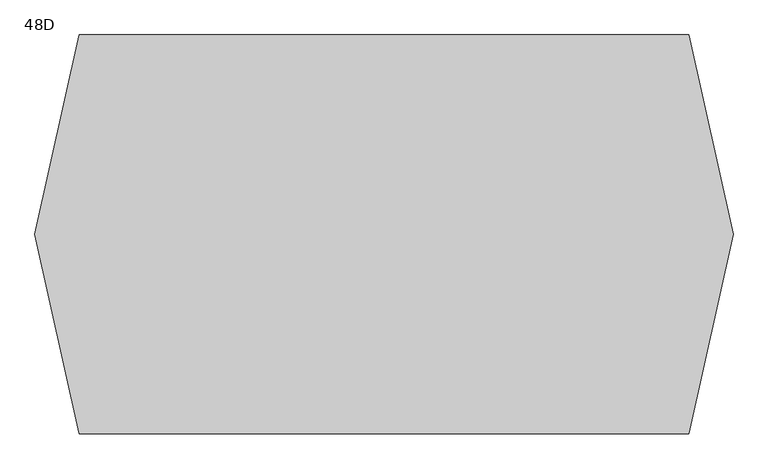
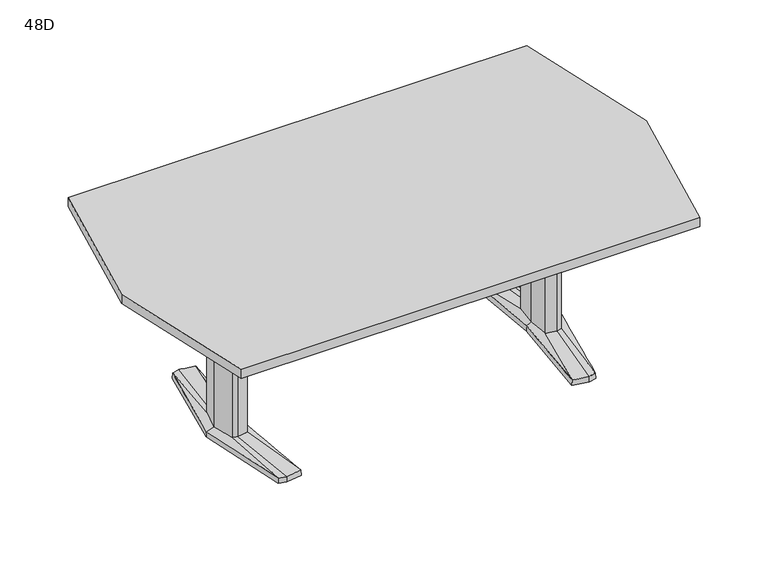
"""IFC4 building model written with IfcOpenShell, lengths in millimetres: furniture geometry, Coalesse_AM_Table_Conference_ETable2_Faceted_84in_AluminiumBase : 48D."""

from ifc_helpers import new_model, si_unit, frame, origin, place, context, project, spatial, polyline, outline, extrude, source, transform, mapped, element, save
from ifc_brep_helpers import plane_surface, spline_surface, advanced_brep


def furniture_48d_c1489872(model_context):
    return source(origin(), model_context, "Body", "SolidModel", [
        advanced_brep(
        [(614.8503471, -379.3768856, 25.4), (644.5756636, -371.5332654, 25.4), (668.2327243, -89.293702, 36.5125), (648.9795254, -94.605478, 36.5125), (606.0521001, -87.0529327, 36.5125), (551.7612538, -368.5071562, 25.4), (597.9364207, 0.0, 36.5125), (579.8389754, 0.3970149, 25.4), (606.0521001, 87.0529327, 36.5125), (551.7615002, 368.5172593, 25.4), (648.9795254, 94.605478, 36.5125), (614.8502233, 379.3769183, 25.4), (668.2327243, 89.293702, 36.5125), (644.7535458, 371.4863276, 25.4), (692.1595251, 0.0, 36.5125), (721.4851663, 0.0003516, 25.4), (578.2468742, 0.3968871, 3.175), (550.06875, 369.8367279, 3.175), (614.9213004, 381.0, 3.175), (646.1093245, 372.7704151, 3.175), (723.10625, 0.0, 3.175), (645.9309817, -372.8174744, 3.175), (614.9213004, -381.0, 3.175), (550.06875, -369.8264415, 3.175), (649.5979264, 107.6121478, 3.175), (594.3065451, 97.8843184, 3.175), (585.1810887, 0.0, 3.175), (594.3065451, -97.8843184, 3.175), (649.5979264, -107.6121478, 3.175), (678.6183473, -99.6056872, 3.175), (705.3083085, 0.0, 3.175), (678.6183473, 99.6056872, 3.175), (613.4286812, 346.9152841, 3.175), (557.7811371, 337.3364985, 3.175), (560.1889918, 324.8641942, 3.175), (612.8600644, 333.9306305, 3.175), (648.6725609, 324.4807859, 3.175), (647.5544526, 337.9105158, 3.175), (613.4286812, -346.9152841, 3.175), (647.5544526, -337.9105158, 3.175), (648.6725609, -324.4807859, 3.175), (612.8600644, -333.9306305, 3.175), (560.1889918, -324.8641942, 3.175), (557.7811371, -337.3364985, 3.175), (649.5979264, 107.6121478, 0.0), (678.6183473, 99.6056872, 0.0), (705.3083085, 0.0, 0.0), (678.6183473, -99.6056872, 0.0), (649.5979264, -107.6121478, 0.0), (594.3065451, -97.8843184, 0.0), (585.1810887, 0.0, 0.0), (594.3065451, 97.8843184, 0.0), (613.4286812, 346.9152841, 0.0), (647.5544526, 337.9105158, 0.0), (648.6725609, 324.4807859, 0.0), (612.8600644, 333.9306305, 0.0), (560.1889918, 324.8641942, 0.0), (557.7811371, 337.3364985, 0.0), (613.4286812, -346.9152841, 0.0), (557.7811371, -337.3364985, 0.0), (560.1889918, -324.8641942, 0.0), (612.8600644, -333.9306305, 0.0), (648.6725609, -324.4807859, 0.0), (647.5544526, -337.9105158, 0.0), (668.2327243, 89.293702, 698.5), (648.9795254, 94.605478, 698.5), (606.0521001, 87.0529327, 698.5), (597.9364207, 0.0, 698.5), (606.0521001, -87.0529327, 698.5), (648.9795254, -94.605478, 698.5), (668.2327243, -89.293702, 698.5), (692.1595251, 0.0, 698.5)],
        [
            (0, 1),
            (1, 2),
            (2, 3),
            (3, 0),
            (3, 4),
            (4, 5),
            (5, 0),
            (4, 6),
            (6, 7),
            (7, 5),
            (6, 8),
            (8, 9),
            (9, 7),
            (8, 10),
            (10, 11),
            (11, 9),
            (10, 12),
            (12, 13),
            (13, 11),
            (12, 14),
            (14, 15),
            (15, 13),
            (1, 15),
            (14, 2),
            (16, 17),
            (17, 18),
            (18, 19),
            (19, 20),
            (20, 21),
            (21, 22),
            (22, 23),
            (23, 16),
            (24, 25),
            (25, 26),
            (26, 27),
            (27, 28),
            (28, 29),
            (29, 30),
            (30, 31),
            (31, 24),
            (32, 33),
            (33, 34),
            (34, 35),
            (35, 36),
            (36, 37),
            (37, 32),
            (38, 39),
            (39, 40),
            (40, 41),
            (41, 42),
            (42, 43),
            (43, 38),
            (16, 7),
            (9, 17),
            (11, 18),
            (13, 19),
            (15, 20),
            (1, 21),
            (0, 22),
            (5, 23),
            (44, 45),
            (45, 46),
            (46, 47),
            (47, 48),
            (48, 49),
            (49, 50),
            (50, 51),
            (51, 44),
            (52, 53),
            (53, 54),
            (54, 55),
            (55, 56),
            (56, 57),
            (57, 52),
            (58, 59),
            (59, 60),
            (60, 61),
            (61, 62),
            (62, 63),
            (63, 58),
            (44, 24),
            (31, 45),
            (30, 46),
            (29, 47),
            (28, 48),
            (27, 49),
            (26, 50),
            (25, 51),
            (52, 32),
            (37, 53),
            (36, 54),
            (35, 55),
            (34, 56),
            (33, 57),
            (58, 38),
            (43, 59),
            (42, 60),
            (41, 61),
            (40, 62),
            (39, 63),
            (64, 65),
            (65, 66),
            (66, 67),
            (67, 68),
            (68, 69),
            (69, 70),
            (70, 71),
            (71, 64),
            (71, 14),
            (12, 64),
            (70, 2),
            (69, 3),
            (68, 4),
            (67, 6),
            (66, 8),
            (65, 10),
        ],
        [
            spline_surface(1, 1, [[(644.5756636, -371.5332654, 25.4), (614.8503471, -379.3768856, 25.4)], [(668.2327243, -89.293702, 36.5125), (648.9795254, -94.605478, 36.5125)]], [2, 2], [2, 2], [0.0, 1.0], [0.0, 1.0]),
            spline_surface(1, 1, [[(614.8503471, -379.3768856, 25.4), (551.7612538, -368.5071562, 25.4)], [(648.9795254, -94.605478, 36.5125), (606.0521001, -87.0529327, 36.5125)]], [2, 2], [2, 2], [0.0, 1.0], [0.0, 1.0]),
            spline_surface(1, 1, [[(551.7612538, -368.5071562, 25.4), (579.8389754, 0.3970149, 25.4)], [(606.0521001, -87.0529327, 36.5125), (597.9364207, 0.0, 36.5125)]], [2, 2], [2, 2], [0.0, 1.0], [0.0, 1.0]),
            spline_surface(1, 1, [[(579.8389754, 0.3970149, 25.4), (551.7615002, 368.5172593, 25.4)], [(597.9364207, 0.0, 36.5125), (606.0521001, 87.0529327, 36.5125)]], [2, 2], [2, 2], [0.0, 1.0], [0.0, 1.0]),
            spline_surface(1, 1, [[(551.7615002, 368.5172593, 25.4), (614.8502233, 379.3769183, 25.4)], [(606.0521001, 87.0529327, 36.5125), (648.9795254, 94.605478, 36.5125)]], [2, 2], [2, 2], [0.0, 1.0], [0.0, 1.0]),
            spline_surface(1, 1, [[(614.8502233, 379.3769183, 25.4), (644.7535458, 371.4863276, 25.4)], [(648.9795254, 94.605478, 36.5125), (668.2327243, 89.293702, 36.5125)]], [2, 2], [2, 2], [0.0, 1.0], [0.0, 1.0]),
            spline_surface(1, 1, [[(644.7535458, 371.4863276, 25.4), (721.4851663, 0.0003516, 25.4)], [(668.2327243, 89.293702, 36.5125), (692.1595251, 0.0, 36.5125)]], [2, 2], [2, 2], [0.0, 1.0], [0.0, 1.0]),
            spline_surface(1, 1, [[(721.4851663, 0.0003516, 25.4), (644.5756636, -371.5332654, 25.4)], [(692.1595251, 0.0, 36.5125), (668.2327243, -89.293702, 36.5125)]], [2, 2], [2, 2], [0.0, 1.0], [0.0, 1.0]),
            plane_surface(frame((615.4216914, 0.0450143, 3.175), z_axis=(0.0, 0.0, -1.0), x_axis=(-0.9669048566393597, -0.2551372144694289, 0.0))),
            plane_surface(frame((564.1578121, 185.1168075, 3.175), z_axis=(-0.9945699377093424, -0.07585840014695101, 0.0712470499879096), x_axis=(-0.07605167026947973, 0.9971038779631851, 0.0))),
            plane_surface(frame((582.4950252, 375.418364, 3.175), z_axis=(-0.1692071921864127, 0.9830019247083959, 0.07124704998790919), x_axis=(0.985506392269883, 0.16963829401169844, 0.0))),
            plane_surface(frame((630.5153124, 376.8852076, 3.175), z_axis=(0.2544888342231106, 0.9644476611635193, 0.07124704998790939), x_axis=(0.9669048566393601, -0.25513721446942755, 0.0))),
            plane_surface(frame((684.6077872, 186.3852076, 3.175), z_axis=(0.9768383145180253, 0.2017690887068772, 0.07124704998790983), x_axis=(0.20228315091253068, -0.9793270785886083, 0.0))),
            plane_surface(frame((684.5186158, -186.4087372, 3.175), z_axis=(0.9767507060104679, -0.20219276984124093, 0.07124704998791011), x_axis=(-0.2027079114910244, -0.9792392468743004, 0.0))),
            plane_surface(frame((630.426141, -376.9087372, 3.175), z_axis=(0.2544888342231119, -0.9644476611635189, 0.0712470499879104), x_axis=(-0.9669048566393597, -0.2551372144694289, 0.0))),
            plane_surface(frame((582.4950252, -375.4132207, 3.175), z_axis=(-0.16935861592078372, -0.982975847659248, 0.07124704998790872), x_axis=(-0.9854802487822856, 0.16979010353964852, 0.0))),
            plane_surface(frame((564.1578121, -184.7147772, 3.175), z_axis=(-0.9945820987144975, 0.07569878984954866, 0.07124704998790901), x_axis=(0.07589165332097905, 0.9971160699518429, 0.0))),
            plane_surface(frame((652.3571479, 106.8509046, 0.0), z_axis=(0.0, 0.0, -1.0000000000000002), x_axis=(-0.9639855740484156, 0.26595453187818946, 0.0))),
            plane_surface(frame((649.5979264, 107.6121478, 3.175), z_axis=(0.26595453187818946, 0.9639855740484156, 0.0), x_axis=(0.0, 0.0, -1.0))),
            plane_surface(frame((678.6183473, 99.6056872, 3.175), z_axis=(0.9659241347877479, 0.2588253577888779, 0.0), x_axis=(0.0, 0.0, -1.0))),
            plane_surface(frame((705.3083085, 0.0, 3.175), z_axis=(0.9659241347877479, -0.2588253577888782, 0.0), x_axis=(0.0, 0.0, -1.0))),
            plane_surface(frame((678.6183473, -99.6056872, 3.175), z_axis=(0.26595453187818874, -0.9639855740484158, 0.0), x_axis=(0.0, 0.0, -1.0))),
            plane_surface(frame((649.5979264, -107.6121478, 3.175), z_axis=(-0.17327617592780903, -0.9848732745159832, 0.0), x_axis=(0.0, 0.0, -1.0))),
            plane_surface(frame((594.3065451, -97.8843184, 3.175), z_axis=(-0.9956824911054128, -0.0928244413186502, 0.0), x_axis=(0.0, 0.0, -1.0))),
            plane_surface(frame((585.1810887, 0.0, 3.175), z_axis=(-0.9956824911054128, 0.09282444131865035, 0.0), x_axis=(0.0, 0.0, -1.0))),
            plane_surface(frame((594.3065451, 97.8843184, 3.175), z_axis=(-0.17327617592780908, 0.984873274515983, 0.0), x_axis=(0.0, 0.0, -1.0))),
            plane_surface(frame((613.4286812, 346.9152841, 3.175), z_axis=(0.25513721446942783, 0.9669048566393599, 0.0), x_axis=(0.0, 0.0, -1.0))),
            plane_surface(frame((647.5544526, 337.9105158, 3.175), z_axis=(0.9965521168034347, 0.0829691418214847, 0.0), x_axis=(0.0, 0.0, -1.0))),
            plane_surface(frame((648.6725609, 324.4807859, 3.175), z_axis=(-0.25513721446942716, -0.9669048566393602, 0.0), x_axis=(0.0, 0.0, -1.0))),
            plane_surface(frame((612.8600644, 333.9306305, 3.175), z_axis=(0.16963829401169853, -0.985506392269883, 0.0), x_axis=(0.0, 0.0, -1.0))),
            plane_surface(frame((560.1889918, 324.8641942, 3.175), z_axis=(-0.9818699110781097, -0.18955600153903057, 0.0), x_axis=(0.0, 0.0, -1.0))),
            plane_surface(frame((557.7811371, 337.3364985, 3.175), z_axis=(-0.16963829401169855, 0.9855063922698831, 0.0), x_axis=(0.0, 0.0, -1.0))),
            plane_surface(frame((613.4286812, -346.9152841, 3.175), z_axis=(-0.1696382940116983, -0.9855063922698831, 0.0), x_axis=(0.0, 0.0, -1.0))),
            plane_surface(frame((557.7811371, -337.3364985, 3.175), z_axis=(-0.9818699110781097, 0.18955600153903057, 0.0), x_axis=(0.0, 0.0, -1.0))),
            plane_surface(frame((560.1889918, -324.8641942, 3.175), z_axis=(0.16963829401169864, 0.985506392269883, 0.0), x_axis=(0.0, 0.0, -1.0))),
            plane_surface(frame((612.8600644, -333.9306305, 3.175), z_axis=(-0.2551372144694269, 0.9669048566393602, 0.0), x_axis=(0.0, 0.0, -1.0))),
            plane_surface(frame((648.6725609, -324.4807859, 3.175), z_axis=(0.9965521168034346, -0.0829691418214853, 0.0), x_axis=(0.0, 0.0, -1.0))),
            plane_surface(frame((647.5544526, -337.9105158, 3.175), z_axis=(0.2551372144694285, -0.9669048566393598, 0.0), x_axis=(0.0, 0.0, -1.0))),
            plane_surface(frame((692.1595251, 0.0, 698.5), z_axis=(0.0, 0.0, 1.0), x_axis=(0.25882535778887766, -0.965924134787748, 0.0))),
            plane_surface(frame((668.2327243, 89.293702, 698.5), z_axis=(0.965924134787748, 0.25882535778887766, 0.0), x_axis=(0.0, 0.0, -1.0))),
            plane_surface(frame((692.1595251, 0.0, 698.5), z_axis=(0.965924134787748, -0.2588253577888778, 0.0), x_axis=(0.0, 0.0, -1.0))),
            plane_surface(frame((668.2327243, -89.293702, 698.5), z_axis=(0.2659545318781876, -0.963985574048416, 0.0), x_axis=(0.0, 0.0, -1.0))),
            plane_surface(frame((648.9795254, -94.605478, 698.5), z_axis=(-0.1732761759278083, -0.9848732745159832, 0.0), x_axis=(0.0, 0.0, -1.0))),
            plane_surface(frame((606.0521001, -87.0529327, 698.5), z_axis=(-0.9956824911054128, -0.0928244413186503, 0.0), x_axis=(0.0, 0.0, -1.0))),
            plane_surface(frame((597.9364207, 0.0, 698.5), z_axis=(-0.9956824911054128, 0.09282444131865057, 0.0), x_axis=(0.0, 0.0, -1.0))),
            plane_surface(frame((606.0521001, 87.0529327, 698.5), z_axis=(-0.17327617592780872, 0.9848732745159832, 0.0), x_axis=(0.0, 0.0, -1.0))),
            plane_surface(frame((648.9795254, 94.605478, 698.5), z_axis=(0.26595453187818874, 0.9639855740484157, 0.0), x_axis=(0.0, 0.0, -1.0))),
        ],
        [
            (0, [[1, 2, 3, 4]]),
            (1, [[5, 6, 7, -4]]),
            (2, [[8, 9, 10, -6]]),
            (3, [[11, 12, 13, -9]]),
            (4, [[14, 15, 16, -12]]),
            (5, [[17, 18, 19, -15]]),
            (6, [[20, 21, 22, -18]]),
            (7, [[23, -21, 24, -2]]),
            (8, [[25, 26, 27, 28, 29, 30, 31, 32], [33, 34, 35, 36, 37, 38, 39, 40], [41, 42, 43, 44, 45, 46], [47, 48, 49, 50, 51, 52]]),
            (9, [[53, -13, 54, -25]]),
            (10, [[-54, -16, 55, -26]]),
            (11, [[-55, -19, 56, -27]]),
            (12, [[-56, -22, 57, -28]]),
            (13, [[-57, -23, 58, -29]]),
            (14, [[-58, -1, 59, -30]]),
            (15, [[-59, -7, 60, -31]]),
            (16, [[-60, -10, -53, -32]]),
            (17, [[61, 62, 63, 64, 65, 66, 67, 68]]),
            (17, [[69, 70, 71, 72, 73, 74]]),
            (17, [[75, 76, 77, 78, 79, 80]]),
            (18, [[81, -40, 82, -61]]),
            (19, [[-82, -39, 83, -62]]),
            (20, [[-83, -38, 84, -63]]),
            (21, [[-84, -37, 85, -64]]),
            (22, [[-85, -36, 86, -65]]),
            (23, [[-86, -35, 87, -66]]),
            (24, [[-87, -34, 88, -67]]),
            (25, [[-88, -33, -81, -68]]),
            (26, [[89, -46, 90, -69]]),
            (27, [[-90, -45, 91, -70]]),
            (28, [[-91, -44, 92, -71]]),
            (29, [[-92, -43, 93, -72]]),
            (30, [[-93, -42, 94, -73]]),
            (31, [[-94, -41, -89, -74]]),
            (32, [[95, -52, 96, -75]]),
            (33, [[-96, -51, 97, -76]]),
            (34, [[-97, -50, 98, -77]]),
            (35, [[-98, -49, 99, -78]]),
            (36, [[-99, -48, 100, -79]]),
            (37, [[-100, -47, -95, -80]]),
            (38, [[101, 102, 103, 104, 105, 106, 107, 108]]),
            (39, [[109, -20, 110, -108]]),
            (40, [[111, -24, -109, -107]]),
            (41, [[112, -3, -111, -106]]),
            (42, [[113, -5, -112, -105]]),
            (43, [[114, -8, -113, -104]]),
            (44, [[115, -11, -114, -103]]),
            (45, [[116, -14, -115, -102]]),
            (46, [[-110, -17, -116, -101]]),
        ],
    ),
        advanced_brep(
        [(-614.8503471, -379.3768856, 25.4), (-648.9795254, -94.605478, 36.5125), (-668.2327243, -89.293702, 36.5125), (-644.5756636, -371.5332654, 25.4), (-551.7612538, -368.5071562, 25.4), (-606.0521001, -87.0529327, 36.5125), (-579.8389754, 0.3970149, 25.4), (-597.9364207, 0.0, 36.5125), (-551.7615002, 368.5172593, 25.4), (-606.0521001, 87.0529327, 36.5125), (-614.8502233, 379.3769183, 25.4), (-648.9795254, 94.605478, 36.5125), (-644.7535458, 371.4863276, 25.4), (-668.2327243, 89.293702, 36.5125), (-721.4851663, 0.0003516, 25.4), (-692.1595251, 0.0, 36.5125), (-578.2468742, 0.3968871, 3.175), (-550.06875, -369.8264415, 3.175), (-614.9213004, -381.0, 3.175), (-645.9309817, -372.8174744, 3.175), (-723.10625, 0.0, 3.175), (-646.1093245, 372.7704151, 3.175), (-614.9213004, 381.0, 3.175), (-550.06875, 369.8367279, 3.175), (-649.5979264, 107.6121478, 3.175), (-678.6183473, 99.6056872, 3.175), (-705.3083085, 0.0, 3.175), (-678.6183473, -99.6056872, 3.175), (-649.5979264, -107.6121478, 3.175), (-594.3065451, -97.8843184, 3.175), (-585.1810887, 0.0, 3.175), (-594.3065451, 97.8843184, 3.175), (-613.4286812, 346.9152841, 3.175), (-647.5544526, 337.9105158, 3.175), (-648.6725609, 324.4807859, 3.175), (-612.8600644, 333.9306305, 3.175), (-560.1889918, 324.8641942, 3.175), (-557.7811371, 337.3364985, 3.175), (-613.4286812, -346.9152841, 3.175), (-557.7811371, -337.3364985, 3.175), (-560.1889918, -324.8641942, 3.175), (-612.8600644, -333.9306305, 3.175), (-648.6725609, -324.4807859, 3.175), (-647.5544526, -337.9105158, 3.175), (-649.5979264, 107.6121478, 0.0), (-594.3065451, 97.8843184, 0.0), (-585.1810887, 0.0, 0.0), (-594.3065451, -97.8843184, 0.0), (-649.5979264, -107.6121478, 0.0), (-678.6183473, -99.6056872, 0.0), (-705.3083085, 0.0, 0.0), (-678.6183473, 99.6056872, 0.0), (-613.4286812, 346.9152841, 0.0), (-557.7811371, 337.3364985, 0.0), (-560.1889918, 324.8641942, 0.0), (-612.8600644, 333.9306305, 0.0), (-648.6725609, 324.4807859, 0.0), (-647.5544526, 337.9105158, 0.0), (-613.4286812, -346.9152841, 0.0), (-647.5544526, -337.9105158, 0.0), (-648.6725609, -324.4807859, 0.0), (-612.8600644, -333.9306305, 0.0), (-560.1889918, -324.8641942, 0.0), (-557.7811371, -337.3364985, 0.0), (-668.2327243, 89.293702, 698.5), (-692.1595251, 0.0, 698.5), (-668.2327243, -89.293702, 698.5), (-648.9795254, -94.605478, 698.5), (-606.0521001, -87.0529327, 698.5), (-597.9364207, 0.0, 698.5), (-606.0521001, 87.0529327, 698.5), (-648.9795254, 94.605478, 698.5)],
        [
            (0, 1),
            (1, 2),
            (2, 3),
            (3, 0),
            (0, 4),
            (4, 5),
            (5, 1),
            (4, 6),
            (6, 7),
            (7, 5),
            (6, 8),
            (8, 9),
            (9, 7),
            (8, 10),
            (10, 11),
            (11, 9),
            (10, 12),
            (12, 13),
            (13, 11),
            (12, 14),
            (14, 15),
            (15, 13),
            (2, 15),
            (14, 3),
            (16, 17),
            (17, 18),
            (18, 19),
            (19, 20),
            (20, 21),
            (21, 22),
            (22, 23),
            (23, 16),
            (24, 25),
            (25, 26),
            (26, 27),
            (27, 28),
            (28, 29),
            (29, 30),
            (30, 31),
            (31, 24),
            (32, 33),
            (33, 34),
            (34, 35),
            (35, 36),
            (36, 37),
            (37, 32),
            (38, 39),
            (39, 40),
            (40, 41),
            (41, 42),
            (42, 43),
            (43, 38),
            (23, 8),
            (6, 16),
            (22, 10),
            (21, 12),
            (20, 14),
            (19, 3),
            (18, 0),
            (17, 4),
            (44, 45),
            (45, 46),
            (46, 47),
            (47, 48),
            (48, 49),
            (49, 50),
            (50, 51),
            (51, 44),
            (52, 53),
            (53, 54),
            (54, 55),
            (55, 56),
            (56, 57),
            (57, 52),
            (58, 59),
            (59, 60),
            (60, 61),
            (61, 62),
            (62, 63),
            (63, 58),
            (51, 25),
            (24, 44),
            (50, 26),
            (49, 27),
            (48, 28),
            (47, 29),
            (46, 30),
            (45, 31),
            (57, 33),
            (32, 52),
            (56, 34),
            (55, 35),
            (54, 36),
            (53, 37),
            (63, 39),
            (38, 58),
            (62, 40),
            (61, 41),
            (60, 42),
            (59, 43),
            (64, 65),
            (65, 66),
            (66, 67),
            (67, 68),
            (68, 69),
            (69, 70),
            (70, 71),
            (71, 64),
            (64, 13),
            (15, 65),
            (2, 66),
            (1, 67),
            (5, 68),
            (7, 69),
            (9, 70),
            (11, 71),
        ],
        [
            spline_surface(1, 1, [[(-644.5756636, -371.5332654, 25.4), (-668.2327243, -89.293702, 36.5125)], [(-614.8503471, -379.3768856, 25.4), (-648.9795254, -94.605478, 36.5125)]], [2, 2], [2, 2], [0.0, 1.0], [0.0, 1.0]),
            spline_surface(1, 1, [[(-614.8503471, -379.3768856, 25.4), (-648.9795254, -94.605478, 36.5125)], [(-551.7612538, -368.5071562, 25.4), (-606.0521001, -87.0529327, 36.5125)]], [2, 2], [2, 2], [0.0, 1.0], [0.0, 1.0]),
            spline_surface(1, 1, [[(-551.7612538, -368.5071562, 25.4), (-606.0521001, -87.0529327, 36.5125)], [(-579.8389754, 0.3970149, 25.4), (-597.9364207, 0.0, 36.5125)]], [2, 2], [2, 2], [0.0, 1.0], [0.0, 1.0]),
            spline_surface(1, 1, [[(-579.8389754, 0.3970149, 25.4), (-597.9364207, 0.0, 36.5125)], [(-551.7615002, 368.5172593, 25.4), (-606.0521001, 87.0529327, 36.5125)]], [2, 2], [2, 2], [0.0, 1.0], [0.0, 1.0]),
            spline_surface(1, 1, [[(-551.7615002, 368.5172593, 25.4), (-606.0521001, 87.0529327, 36.5125)], [(-614.8502233, 379.3769183, 25.4), (-648.9795254, 94.605478, 36.5125)]], [2, 2], [2, 2], [0.0, 1.0], [0.0, 1.0]),
            spline_surface(1, 1, [[(-614.8502233, 379.3769183, 25.4), (-648.9795254, 94.605478, 36.5125)], [(-644.7535458, 371.4863276, 25.4), (-668.2327243, 89.293702, 36.5125)]], [2, 2], [2, 2], [0.0, 1.0], [0.0, 1.0]),
            spline_surface(1, 1, [[(-644.7535458, 371.4863276, 25.4), (-668.2327243, 89.293702, 36.5125)], [(-721.4851663, 0.0003516, 25.4), (-692.1595251, 0.0, 36.5125)]], [2, 2], [2, 2], [0.0, 1.0], [0.0, 1.0]),
            spline_surface(1, 1, [[(-721.4851663, 0.0003516, 25.4), (-692.1595251, 0.0, 36.5125)], [(-644.5756636, -371.5332654, 25.4), (-668.2327243, -89.293702, 36.5125)]], [2, 2], [2, 2], [0.0, 1.0], [0.0, 1.0]),
            plane_surface(frame((-615.4216914, 0.0450143, 3.175), z_axis=(0.0, 0.0, -1.0), x_axis=(0.9669048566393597, -0.2551372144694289, 0.0))),
            plane_surface(frame((-564.1578121, 185.1168075, 3.175), z_axis=(0.9945699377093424, -0.07585840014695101, 0.0712470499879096), x_axis=(0.07605167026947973, 0.9971038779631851, 0.0))),
            plane_surface(frame((-582.4950252, 375.418364, 3.175), z_axis=(0.1692071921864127, 0.9830019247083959, 0.07124704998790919), x_axis=(-0.985506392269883, 0.16963829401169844, 0.0))),
            plane_surface(frame((-630.5153124, 376.8852076, 3.175), z_axis=(-0.2544888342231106, 0.9644476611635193, 0.07124704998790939), x_axis=(-0.9669048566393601, -0.25513721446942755, 0.0))),
            plane_surface(frame((-684.6077872, 186.3852076, 3.175), z_axis=(-0.9768383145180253, 0.2017690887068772, 0.07124704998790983), x_axis=(-0.20228315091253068, -0.9793270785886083, 0.0))),
            plane_surface(frame((-684.5186158, -186.4087372, 3.175), z_axis=(-0.9767507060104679, -0.20219276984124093, 0.07124704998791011), x_axis=(0.2027079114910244, -0.9792392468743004, 0.0))),
            plane_surface(frame((-630.426141, -376.9087372, 3.175), z_axis=(-0.2544888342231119, -0.9644476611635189, 0.0712470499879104), x_axis=(0.9669048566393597, -0.2551372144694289, 0.0))),
            plane_surface(frame((-582.4950252, -375.4132207, 3.175), z_axis=(0.16935861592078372, -0.982975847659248, 0.07124704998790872), x_axis=(0.9854802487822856, 0.16979010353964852, 0.0))),
            plane_surface(frame((-564.1578121, -184.7147772, 3.175), z_axis=(0.9945820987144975, 0.07569878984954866, 0.07124704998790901), x_axis=(-0.07589165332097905, 0.9971160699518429, 0.0))),
            plane_surface(frame((-652.3571479, 106.8509046, 0.0), z_axis=(0.0, 0.0, -1.0000000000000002), x_axis=(0.9639855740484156, 0.26595453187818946, 0.0))),
            plane_surface(frame((-649.5979264, 107.6121478, 3.175), z_axis=(-0.26595453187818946, 0.9639855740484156, 0.0), x_axis=(0.0, 0.0, -1.0))),
            plane_surface(frame((-678.6183473, 99.6056872, 3.175), z_axis=(-0.9659241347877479, 0.2588253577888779, 0.0), x_axis=(0.0, 0.0, -1.0))),
            plane_surface(frame((-705.3083085, 0.0, 3.175), z_axis=(-0.9659241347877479, -0.2588253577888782, 0.0), x_axis=(0.0, 0.0, -1.0))),
            plane_surface(frame((-678.6183473, -99.6056872, 3.175), z_axis=(-0.26595453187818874, -0.9639855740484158, 0.0), x_axis=(0.0, 0.0, -1.0))),
            plane_surface(frame((-649.5979264, -107.6121478, 3.175), z_axis=(0.17327617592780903, -0.9848732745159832, 0.0), x_axis=(0.0, 0.0, -1.0))),
            plane_surface(frame((-594.3065451, -97.8843184, 3.175), z_axis=(0.9956824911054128, -0.0928244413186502, 0.0), x_axis=(0.0, 0.0, -1.0))),
            plane_surface(frame((-585.1810887, 0.0, 3.175), z_axis=(0.9956824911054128, 0.09282444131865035, 0.0), x_axis=(0.0, 0.0, -1.0))),
            plane_surface(frame((-594.3065451, 97.8843184, 3.175), z_axis=(0.17327617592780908, 0.984873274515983, 0.0), x_axis=(0.0, 0.0, -1.0))),
            plane_surface(frame((-613.4286812, 346.9152841, 3.175), z_axis=(-0.25513721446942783, 0.9669048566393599, 0.0), x_axis=(0.0, 0.0, -1.0))),
            plane_surface(frame((-647.5544526, 337.9105158, 3.175), z_axis=(-0.9965521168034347, 0.0829691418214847, 0.0), x_axis=(0.0, 0.0, -1.0))),
            plane_surface(frame((-648.6725609, 324.4807859, 3.175), z_axis=(0.25513721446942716, -0.9669048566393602, 0.0), x_axis=(0.0, 0.0, -1.0))),
            plane_surface(frame((-612.8600644, 333.9306305, 3.175), z_axis=(-0.16963829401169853, -0.985506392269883, 0.0), x_axis=(0.0, 0.0, -1.0))),
            plane_surface(frame((-560.1889918, 324.8641942, 3.175), z_axis=(0.9818699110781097, -0.18955600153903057, 0.0), x_axis=(0.0, 0.0, -1.0))),
            plane_surface(frame((-557.7811371, 337.3364985, 3.175), z_axis=(0.16963829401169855, 0.9855063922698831, 0.0), x_axis=(0.0, 0.0, -1.0))),
            plane_surface(frame((-613.4286812, -346.9152841, 3.175), z_axis=(0.1696382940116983, -0.9855063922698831, 0.0), x_axis=(0.0, 0.0, -1.0))),
            plane_surface(frame((-557.7811371, -337.3364985, 3.175), z_axis=(0.9818699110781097, 0.18955600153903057, 0.0), x_axis=(0.0, 0.0, -1.0))),
            plane_surface(frame((-560.1889918, -324.8641942, 3.175), z_axis=(-0.16963829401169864, 0.985506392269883, 0.0), x_axis=(0.0, 0.0, -1.0))),
            plane_surface(frame((-612.8600644, -333.9306305, 3.175), z_axis=(0.2551372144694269, 0.9669048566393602, 0.0), x_axis=(0.0, 0.0, -1.0))),
            plane_surface(frame((-648.6725609, -324.4807859, 3.175), z_axis=(-0.9965521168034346, -0.0829691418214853, 0.0), x_axis=(0.0, 0.0, -1.0))),
            plane_surface(frame((-647.5544526, -337.9105158, 3.175), z_axis=(-0.2551372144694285, -0.9669048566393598, 0.0), x_axis=(0.0, 0.0, -1.0))),
            plane_surface(frame((-692.1595251, 0.0, 698.5), z_axis=(0.0, 0.0, 1.0), x_axis=(-0.25882535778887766, -0.965924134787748, 0.0))),
            plane_surface(frame((-668.2327243, 89.293702, 698.5), z_axis=(-0.965924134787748, 0.25882535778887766, 0.0), x_axis=(0.0, 0.0, -1.0))),
            plane_surface(frame((-692.1595251, 0.0, 698.5), z_axis=(-0.965924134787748, -0.2588253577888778, 0.0), x_axis=(0.0, 0.0, -1.0))),
            plane_surface(frame((-668.2327243, -89.293702, 698.5), z_axis=(-0.2659545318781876, -0.963985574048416, 0.0), x_axis=(0.0, 0.0, -1.0))),
            plane_surface(frame((-648.9795254, -94.605478, 698.5), z_axis=(0.1732761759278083, -0.9848732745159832, 0.0), x_axis=(0.0, 0.0, -1.0))),
            plane_surface(frame((-606.0521001, -87.0529327, 698.5), z_axis=(0.9956824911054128, -0.0928244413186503, 0.0), x_axis=(0.0, 0.0, -1.0))),
            plane_surface(frame((-597.9364207, 0.0, 698.5), z_axis=(0.9956824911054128, 0.09282444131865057, 0.0), x_axis=(0.0, 0.0, -1.0))),
            plane_surface(frame((-606.0521001, 87.0529327, 698.5), z_axis=(0.17327617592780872, 0.9848732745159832, 0.0), x_axis=(0.0, 0.0, -1.0))),
            plane_surface(frame((-648.9795254, 94.605478, 698.5), z_axis=(-0.26595453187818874, 0.9639855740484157, 0.0), x_axis=(0.0, 0.0, -1.0))),
        ],
        [
            (0, [[1, 2, 3, 4]]),
            (1, [[-1, 5, 6, 7]]),
            (2, [[-6, 8, 9, 10]]),
            (3, [[-9, 11, 12, 13]]),
            (4, [[-12, 14, 15, 16]]),
            (5, [[-15, 17, 18, 19]]),
            (6, [[-18, 20, 21, 22]]),
            (7, [[-3, 23, -21, 24]]),
            (8, [[25, 26, 27, 28, 29, 30, 31, 32], [33, 34, 35, 36, 37, 38, 39, 40], [41, 42, 43, 44, 45, 46], [47, 48, 49, 50, 51, 52]]),
            (9, [[-32, 53, -11, 54]]),
            (10, [[-31, 55, -14, -53]]),
            (11, [[-30, 56, -17, -55]]),
            (12, [[-29, 57, -20, -56]]),
            (13, [[-28, 58, -24, -57]]),
            (14, [[-27, 59, -4, -58]]),
            (15, [[-26, 60, -5, -59]]),
            (16, [[-25, -54, -8, -60]]),
            (17, [[61, 62, 63, 64, 65, 66, 67, 68]]),
            (17, [[69, 70, 71, 72, 73, 74]]),
            (17, [[75, 76, 77, 78, 79, 80]]),
            (18, [[-68, 81, -33, 82]]),
            (19, [[-67, 83, -34, -81]]),
            (20, [[-66, 84, -35, -83]]),
            (21, [[-65, 85, -36, -84]]),
            (22, [[-64, 86, -37, -85]]),
            (23, [[-63, 87, -38, -86]]),
            (24, [[-62, 88, -39, -87]]),
            (25, [[-61, -82, -40, -88]]),
            (26, [[-74, 89, -41, 90]]),
            (27, [[-73, 91, -42, -89]]),
            (28, [[-72, 92, -43, -91]]),
            (29, [[-71, 93, -44, -92]]),
            (30, [[-70, 94, -45, -93]]),
            (31, [[-69, -90, -46, -94]]),
            (32, [[-80, 95, -47, 96]]),
            (33, [[-79, 97, -48, -95]]),
            (34, [[-78, 98, -49, -97]]),
            (35, [[-77, 99, -50, -98]]),
            (36, [[-76, 100, -51, -99]]),
            (37, [[-75, -96, -52, -100]]),
            (38, [[101, 102, 103, 104, 105, 106, 107, 108]]),
            (39, [[-101, 109, -22, 110]]),
            (40, [[-102, -110, -23, 111]]),
            (41, [[-103, -111, -2, 112]]),
            (42, [[-104, -112, -7, 113]]),
            (43, [[-105, -113, -10, 114]]),
            (44, [[-106, -114, -13, 115]]),
            (45, [[-107, -115, -16, 116]]),
            (46, [[-108, -116, -19, -109]]),
        ],
    ),
        extrude(outline(polyline([(-1066.8, 0.0), (-931.6541794, 609.6), (931.6541794, 609.6), (1066.8, 0.0), (931.6541794, -609.6), (-931.6541794, -609.6), (-1066.8, 0.0)])), frame((0.0, 0.0, 698.5), z_axis=(0.0, 0.0, 1.0), x_axis=(1.0, 0.0, 0.0)), (0.0, 0.0, 1.0), 38.1),
        extrude(outline(polyline([(96.8375, 698.5), (103.1875, 698.5), (103.1875, 476.25), (-103.1875, 476.25), (-103.1875, 698.5), (-96.8375, 698.5), (-96.8375, 482.6), (96.8375, 482.6), (96.8375, 698.5)])), frame((-597.9364207, 0.0, 0.0), z_axis=(1.0, 0.0, 0.0), x_axis=(0.0, 1.0, 0.0)), (0.0, 0.0, 1.0), 1195.8728415),
    ])


if __name__ == "__main__":
    model = new_model("IFC4")
    model_context = context("Model", 3, world=origin())
    ifc_project = project(units=[si_unit("LENGTHUNIT", "METRE", prefix="MILLI")], contexts=[model_context])
    site = spatial("IfcSite", under=ifc_project)
    building = spatial("IfcBuilding", under=site)
    placement = place(None, origin())
    furniture_48d_shape = furniture_48d_c1489872(model_context)
    element("IfcFurniture", 1, ObjectType="Coalesse_AM_Table_Conference_ETable2_Faceted_84in_AluminiumBase : 48D", at=placement, inside=building, context=model_context, shape_type="MappedRepresentation", body=[
        mapped(furniture_48d_shape, transform((0.0, 0.0, 0.0), x_axis=(1.0, 0.0, 0.0), y_axis=(0.0, 1.0, 0.0), z_axis=(0.0, 0.0, 1.0))),
    ])
    save(model, "model.ifc")
